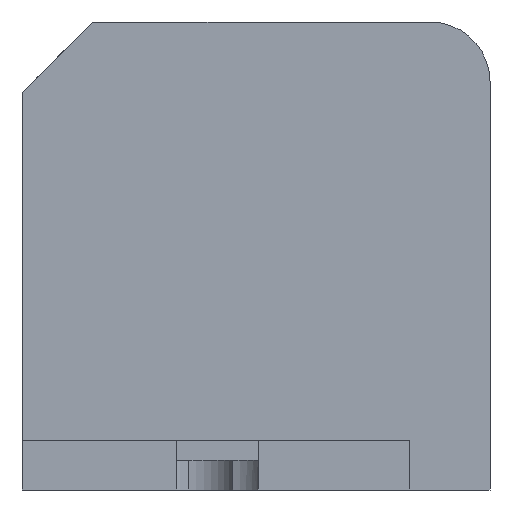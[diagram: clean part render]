
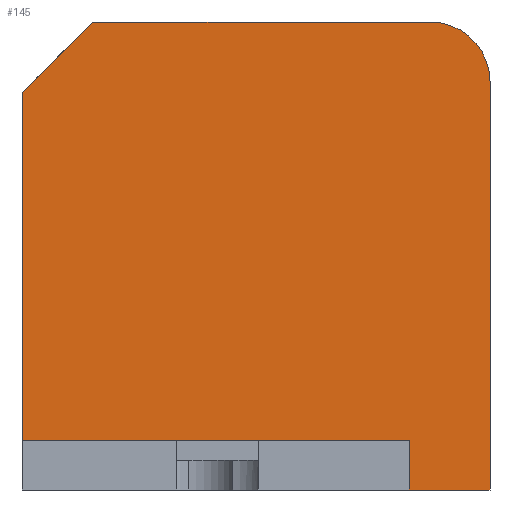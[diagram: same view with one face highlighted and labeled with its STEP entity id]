
A CAD part, left-side view. The second image highlights one B-rep face of the part: STEP entity #145.
In plain terms, the highlighted planar face has unit normal (-1, 0, 0).
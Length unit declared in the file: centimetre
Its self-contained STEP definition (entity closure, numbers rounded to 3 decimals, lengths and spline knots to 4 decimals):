
#17 = FACE_OUTER_BOUND ( 'NONE', #18, .T. ) ;
#18 = EDGE_LOOP ( 'NONE', ( #1181, #721, #1066, #1624, #80, #561, #1485, #1528 ) ) ;
#32 = VERTEX_POINT ( 'NONE', #1371 ) ;
#40 = CARTESIAN_POINT ( 'NONE',  ( 0., 1000., 1000. ) ) ;
#51 = VECTOR ( 'NONE', #933, 100. ) ;
#80 = ORIENTED_EDGE ( 'NONE', *, *, #1397, .F. ) ;
#120 = VECTOR ( 'NONE', #829, 100. ) ;
#141 = DIRECTION ( 'NONE',  ( 1., 0., 0. ) ) ;
#145 = ADVANCED_FACE ( 'NONE', ( #17 ), #1030, .F. ) ;
#171 = EDGE_CURVE ( 'NONE', #1120, #797, #1607, .T. ) ;
#193 = CARTESIAN_POINT ( 'NONE',  ( 0., 127.5202, 872.4798 ) ) ;
#214 = VERTEX_POINT ( 'NONE', #1516 ) ;
#249 = CARTESIAN_POINT ( 'NONE',  ( 0., 172.652, 104.7589 ) ) ;
#270 = EDGE_CURVE ( 'NONE', #1120, #1441, #1526, .T. ) ;
#284 = DIRECTION ( 'NONE',  ( 0., 1., 0. ) ) ;
#308 = LINE ( 'NONE', #1276, #646 ) ;
#316 = CARTESIAN_POINT ( 'NONE',  ( 0., 1000., 1000. ) ) ;
#328 = LINE ( 'NONE', #1766, #1481 ) ;
#350 = EDGE_CURVE ( 'NONE', #1091, #32, #690, .T. ) ;
#466 = DIRECTION ( 'NONE',  ( 0., 0., -1. ) ) ;
#469 = DIRECTION ( 'NONE',  ( 0., 0., -1. ) ) ;
#486 = DIRECTION ( 'NONE',  ( 0., 0., -1. ) ) ;
#561 = ORIENTED_EDGE ( 'NONE', *, *, #1743, .T. ) ;
#601 = LINE ( 'NONE', #40, #644 ) ;
#607 = DIRECTION ( 'NONE',  ( 0., -1., 0. ) ) ;
#642 = CARTESIAN_POINT ( 'NONE',  ( 0., 172.652, 0. ) ) ;
#644 = VECTOR ( 'NONE', #607, 100. ) ;
#646 = VECTOR ( 'NONE', #284, 100. ) ;
#684 = AXIS2_PLACEMENT_3D ( 'NONE', #193, #1043, #486 ) ;
#690 = LINE ( 'NONE', #1014, #120 ) ;
#721 = ORIENTED_EDGE ( 'NONE', *, *, #1611, .F. ) ;
#763 = CARTESIAN_POINT ( 'NONE',  ( 0., 1000., 0. ) ) ;
#797 = VERTEX_POINT ( 'NONE', #1152 ) ;
#798 = CARTESIAN_POINT ( 'NONE',  ( 0., 172.652, 0. ) ) ;
#810 = VECTOR ( 'NONE', #1364, 100. ) ;
#827 = VERTEX_POINT ( 'NONE', #854 ) ;
#829 = DIRECTION ( 'NONE',  ( 0., 0.707, -0.707 ) ) ;
#854 = CARTESIAN_POINT ( 'NONE',  ( 0., 0., 872.4798 ) ) ;
#878 = DIRECTION ( 'NONE',  ( 0., 0., -1. ) ) ;
#898 = AXIS2_PLACEMENT_3D ( 'NONE', #316, #141, #878 ) ;
#921 = EDGE_CURVE ( 'NONE', #32, #1080, #1304, .T. ) ;
#933 = DIRECTION ( 'NONE',  ( 0., 0., 1. ) ) ;
#956 = EDGE_CURVE ( 'NONE', #1091, #214, #601, .T. ) ;
#958 = CARTESIAN_POINT ( 'NONE',  ( 0., 1000., 104.7589 ) ) ;
#1014 = CARTESIAN_POINT ( 'NONE',  ( 0., 848.6411, 1000. ) ) ;
#1030 = PLANE ( 'NONE',  #898 ) ;
#1043 = DIRECTION ( 'NONE',  ( -1., 0., 0. ) ) ;
#1066 = ORIENTED_EDGE ( 'NONE', *, *, #270, .F. ) ;
#1077 = CIRCLE ( 'NONE', #684, 127.5202 ) ;
#1080 = VERTEX_POINT ( 'NONE', #958 ) ;
#1091 = VERTEX_POINT ( 'NONE', #1349 ) ;
#1120 = VERTEX_POINT ( 'NONE', #798 ) ;
#1152 = CARTESIAN_POINT ( 'NONE',  ( 0., 0., 0. ) ) ;
#1181 = ORIENTED_EDGE ( 'NONE', *, *, #921, .T. ) ;
#1276 = CARTESIAN_POINT ( 'NONE',  ( 0., 172.652, 104.7589 ) ) ;
#1304 = LINE ( 'NONE', #1601, #1464 ) ;
#1349 = CARTESIAN_POINT ( 'NONE',  ( 0., 848.6411, 1000. ) ) ;
#1364 = DIRECTION ( 'NONE',  ( 0., -1., 0. ) ) ;
#1371 = CARTESIAN_POINT ( 'NONE',  ( 0., 1000., 848.6411 ) ) ;
#1397 = EDGE_CURVE ( 'NONE', #827, #797, #328, .T. ) ;
#1441 = VERTEX_POINT ( 'NONE', #249 ) ;
#1464 = VECTOR ( 'NONE', #469, 100. ) ;
#1481 = VECTOR ( 'NONE', #466, 100. ) ;
#1485 = ORIENTED_EDGE ( 'NONE', *, *, #956, .F. ) ;
#1516 = CARTESIAN_POINT ( 'NONE',  ( 0., 127.5202, 1000. ) ) ;
#1526 = LINE ( 'NONE', #642, #51 ) ;
#1528 = ORIENTED_EDGE ( 'NONE', *, *, #350, .T. ) ;
#1601 = CARTESIAN_POINT ( 'NONE',  ( 0., 1000., 1000. ) ) ;
#1607 = LINE ( 'NONE', #763, #810 ) ;
#1611 = EDGE_CURVE ( 'NONE', #1441, #1080, #308, .T. ) ;
#1624 = ORIENTED_EDGE ( 'NONE', *, *, #171, .T. ) ;
#1743 = EDGE_CURVE ( 'NONE', #827, #214, #1077, .T. ) ;
#1766 = CARTESIAN_POINT ( 'NONE',  ( 0., 0., 1000. ) ) ;
